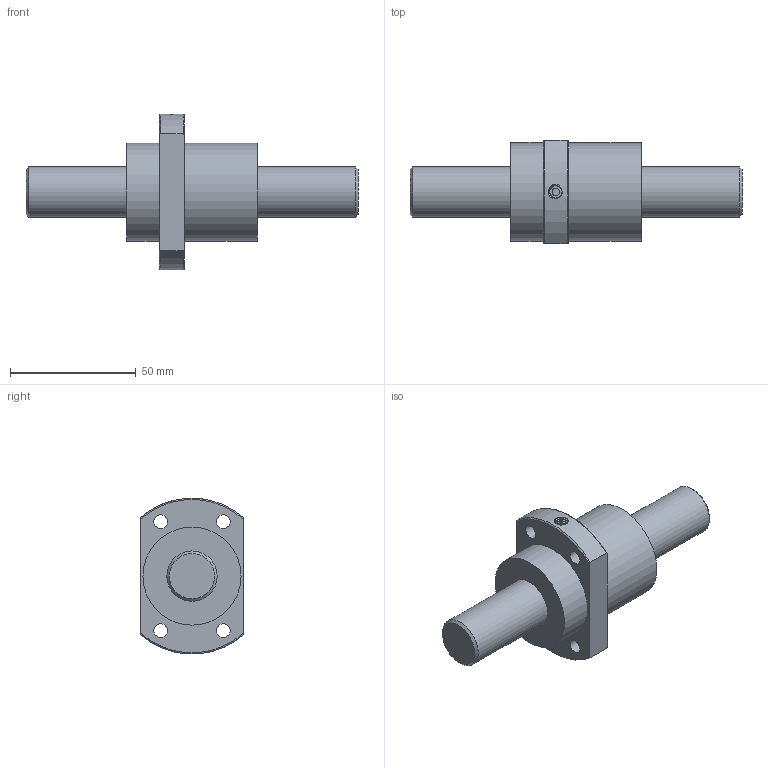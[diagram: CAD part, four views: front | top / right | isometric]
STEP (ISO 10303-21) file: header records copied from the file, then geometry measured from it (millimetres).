
FILE_DESCRIPTION(/* description */ ('Unknown','CAx-IF Rec.Pracs.---Representation and Presentation of Product Manufacturing Information (PMI)---4.0---2014-10-13','CAx-IF Rec.Pracs.---3D Tessellated Geometry---0.4---2014-09-14','2;1'),/* implementation_level */ '2;1');
FILE_NAME(/* name */ 'SFY2020-3.6',/* time_stamp */ '2020-12-06T18:01:23+08:00',/* author */ ('Unknown'),/* organization */ ('Unknown'),/* preprocessor_version */ 'ST-DEVELOPER v16.7',/* originating_system */ 'Solid Edge',/* authorisation */ 'Unknown');
FILE_SCHEMA (('AP242_MANAGED_MODEL_BASED_3D_ENGINEERING_MIM_LF { 1 0 10303 442 1 1 4 }'));
Length unit declared in the file: millimetre
Products named in the file (1): SFY2020-3.6
Bounding box: 132 x 41 x 61.9 mm (x, y, z)
Volume: 97439 mm3; surface area: 17400.7 mm2
Topology: 1 solids, 1 shells, 31 faces, 72 edges, 49 vertices
Faces by surface type: cylinder 13, plane 10, torus 4, cone 2, bspline 2
Full cylindrical faces by diameter (mm): 3 x1, 5.5 x4, 20 x2, 39 x2
Entity records: 3366 total; most frequent: CARTESIAN_POINT 2658, DIRECTION 134, ORIENTED_EDGE 112, AXIS2_PLACEMENT_3D 64, EDGE_CURVE 56, EDGE_LOOP 56, FACE_BOUND 56, VERTEX_POINT 44
